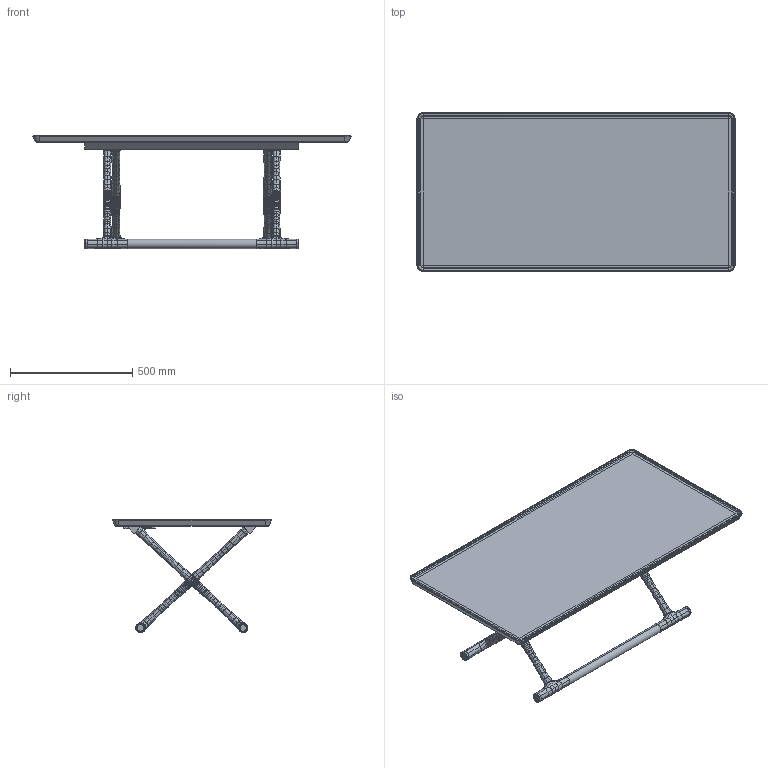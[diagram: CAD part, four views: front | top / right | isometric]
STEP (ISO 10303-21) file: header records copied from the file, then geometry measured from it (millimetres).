
FILE_DESCRIPTION (( 'STEP AP214' ), '1' );
FILE_NAME ('Jäger_Lounge_table_STEP.STEP', '2023-01-03T09:31:17', ( '' ), ( '' ), 'SwSTEP 2.0', 'SolidWorks 2022', '' );
FILE_SCHEMA (( 'AUTOMOTIVE_DESIGN' ));
Length unit declared in the file: millimetre
Products named in the file (1): Jäger_Lounge_table_STEP
Bounding box: 1300.03 x 650 x 462.88 mm (x, y, z)
Surface area: 2529756.3 mm2 (no closed solid volume)
Topology: 0 solids, 46 shells, 1749 faces, 3739 edges, 2054 vertices
Faces by surface type: bspline 1508, plane 158, cylinder 83
Entity records: 83875 total; most frequent: CARTESIAN_POINT 59370, ORIENTED_EDGE 7106, EDGE_CURVE 3727, B_SPLINE_CURVE_WITH_KNOTS 3537, VERTEX_POINT 2054, EDGE_LOOP 1759, FACE_OUTER_BOUND 1749, ADVANCED_FACE 1749
